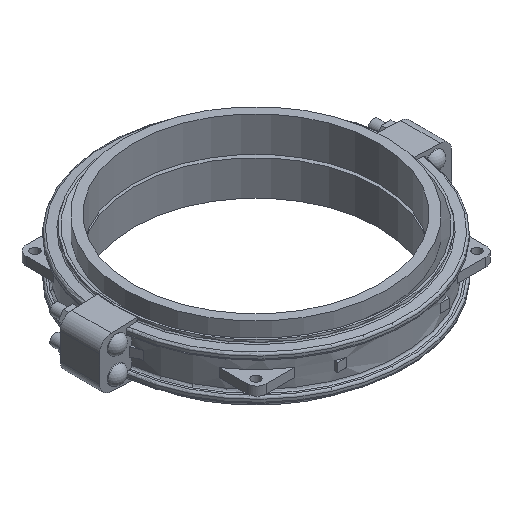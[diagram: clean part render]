
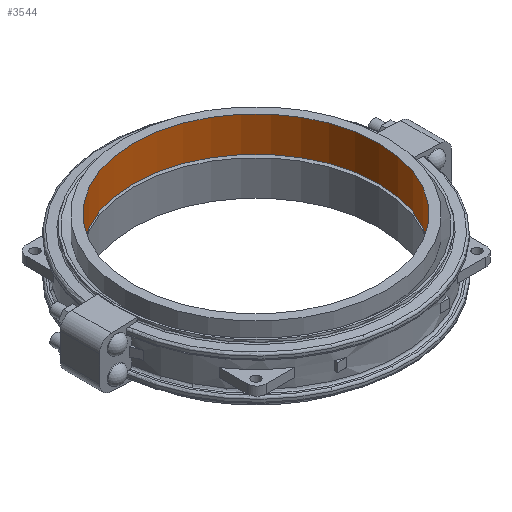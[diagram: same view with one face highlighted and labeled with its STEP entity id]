
A CAD part, isometric view. The second image highlights one B-rep face of the part: STEP entity #3544.
In plain terms, the highlighted cylindrical face has radius 355.6 mm (diameter 711.2 mm), a full revolution.
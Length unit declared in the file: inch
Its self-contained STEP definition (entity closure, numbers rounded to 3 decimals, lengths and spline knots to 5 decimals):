
#158=CYLINDRICAL_SURFACE('',#3979,14.);
#382=FACE_OUTER_BOUND('',#606,.T.);
#606=EDGE_LOOP('',(#3060,#3061,#3062,#3063,#3064,#3065));
#865=LINE('',#6479,#1122);
#1122=VECTOR('',#4960,14.);
#1291=CIRCLE('',#3977,14.);
#1292=CIRCLE('',#3978,14.);
#1293=CIRCLE('',#3980,14.);
#1294=CIRCLE('',#3981,14.);
#1623=VERTEX_POINT('',#6473);
#1624=VERTEX_POINT('',#6474);
#1625=VERTEX_POINT('',#6478);
#1626=VERTEX_POINT('',#6480);
#2103=EDGE_CURVE('',#1623,#1624,#1291,.T.);
#2104=EDGE_CURVE('',#1624,#1623,#1292,.T.);
#2105=EDGE_CURVE('',#1624,#1625,#865,.T.);
#2106=EDGE_CURVE('',#1626,#1625,#1293,.T.);
#2107=EDGE_CURVE('',#1625,#1626,#1294,.T.);
#3060=ORIENTED_EDGE('',*,*,#2103,.T.);
#3061=ORIENTED_EDGE('',*,*,#2105,.T.);
#3062=ORIENTED_EDGE('',*,*,#2106,.F.);
#3063=ORIENTED_EDGE('',*,*,#2107,.F.);
#3064=ORIENTED_EDGE('',*,*,#2105,.F.);
#3065=ORIENTED_EDGE('',*,*,#2104,.T.);
#3544=ADVANCED_FACE('',(#382),#158,.F.);
#3977=AXIS2_PLACEMENT_3D('',#6475,#4954,#4955);
#3978=AXIS2_PLACEMENT_3D('',#6476,#4956,#4957);
#3979=AXIS2_PLACEMENT_3D('',#6477,#4958,#4959);
#3980=AXIS2_PLACEMENT_3D('',#6481,#4961,#4962);
#3981=AXIS2_PLACEMENT_3D('',#6482,#4963,#4964);
#4954=DIRECTION('center_axis',(0.,0.,-1.));
#4955=DIRECTION('ref_axis',(1.,0.,0.));
#4956=DIRECTION('center_axis',(0.,0.,-1.));
#4957=DIRECTION('ref_axis',(1.,0.,0.));
#4958=DIRECTION('center_axis',(0.,0.,-1.));
#4959=DIRECTION('ref_axis',(0.,1.,0.));
#4960=DIRECTION('',(0.,0.,1.));
#4961=DIRECTION('center_axis',(0.,0.,-1.));
#4962=DIRECTION('ref_axis',(1.,0.,0.));
#4963=DIRECTION('center_axis',(0.,0.,-1.));
#4964=DIRECTION('ref_axis',(1.,0.,0.));
#6473=CARTESIAN_POINT('',(0.,14.,0.));
#6474=CARTESIAN_POINT('',(0.,-14.,0.));
#6475=CARTESIAN_POINT('Origin',(0.,0.,0.));
#6476=CARTESIAN_POINT('Origin',(0.,0.,0.));
#6477=CARTESIAN_POINT('Origin',(0.,0.,2.));
#6478=CARTESIAN_POINT('',(0.,-14.,4.));
#6479=CARTESIAN_POINT('',(0.,-14.,2.));
#6480=CARTESIAN_POINT('',(0.,14.,4.));
#6481=CARTESIAN_POINT('Origin',(0.,0.,4.));
#6482=CARTESIAN_POINT('Origin',(0.,0.,4.));
